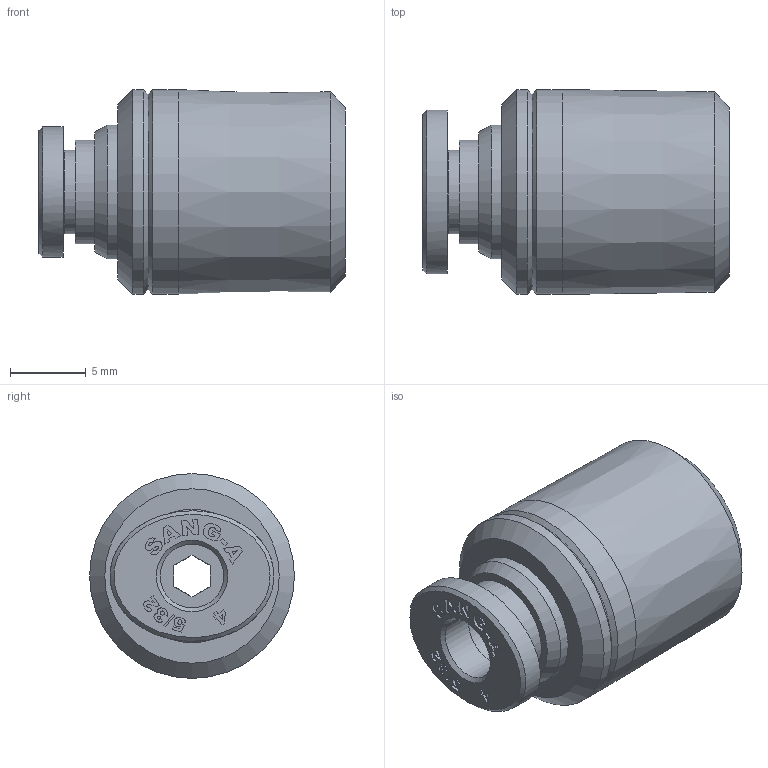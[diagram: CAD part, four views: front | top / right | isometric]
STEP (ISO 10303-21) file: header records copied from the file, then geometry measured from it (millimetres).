
FILE_DESCRIPTION((''),'2;1');
FILE_NAME('C:\Users\user0117\Desktop\김진일\홈페이지\5_32\Internet\GPOC 5_32-N02U.stp','2019-09-18T08:10:47',('user0117'),(''),'Autodesk Inventor 2013','Autodesk Inventor 2013','');
FILE_SCHEMA(('AUTOMOTIVE_DESIGN { 1 0 10303 214 1 1 1 1 }'));
Length unit declared in the file: millimetre
Products named in the file (5): GPOC 5_32-N02U; GPOC BODY 5_32-N02U(BRASS); G-COLLAR 5-32C; COLLAR G04C; SLEEVE G04
Assembly tree (4 placements, depth 3):
  GPOC 5_32-N02U
    GPOC BODY 5_32-N02U(BRASS)
    G-COLLAR 5-32C
      COLLAR G04C
      SLEEVE G04
Bounding box: 20.2 x 13.5 x 13.5 mm (x, y, z)
Volume: 2054.5 mm3; surface area: 1390.9 mm2
Topology: 3 solids, 3 shells, 183 faces, 474 edges, 314 vertices
Faces by surface type: plane 105, bspline 59, cone 10, cylinder 9
Full cylindrical faces by diameter (mm): 4.2 x3, 5.5 x1, 6 x1, 6.8 x1, 8.8 x1, 13.5 x2
Entity records: 6077 total; most frequent: CARTESIAN_POINT 1965, ORIENTED_EDGE 894, DIRECTION 617, EDGE_CURVE 447, VERTEX_POINT 307, VECTOR 297, LINE 297, EDGE_LOOP 226
